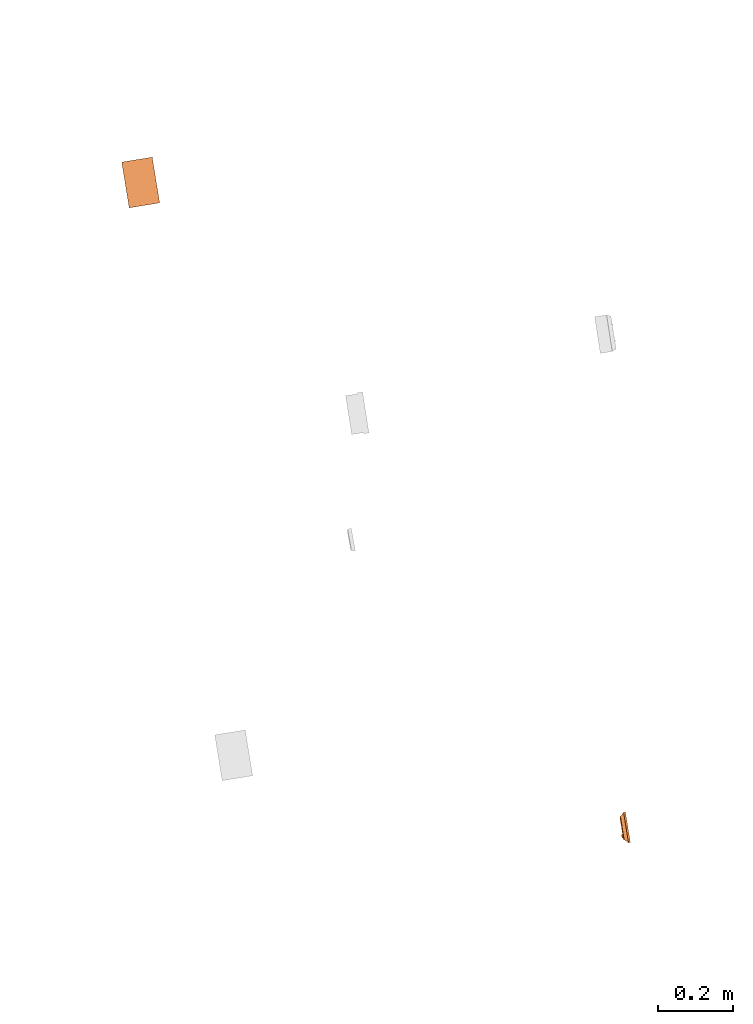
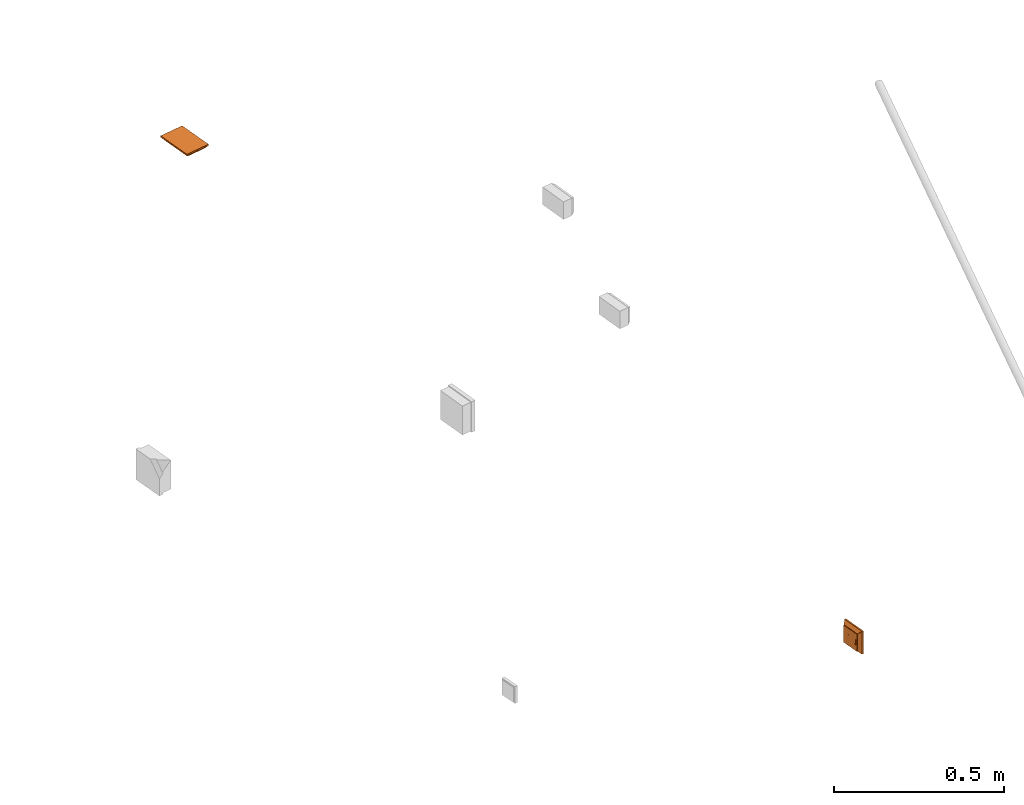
# One storey, part 23 of 33: 2 proxies.
"""IFC2X3 building model written with IfcOpenShell, lengths in millimetres."""

from ifc_helpers import new_model, entity, si_unit, converted_unit, derived_unit, direction, frame, frame_2d, origin, origin_with_axes, origin_2d_with_axis, place, context, subcontext, project, spatial, polyline, rectangle, circle, outline, extrude, faceted_brep, source, transform, mapped, material, type_object, element, save


model = new_model("IFC2X3")

# Units and contexts
plan_context = context("Plan", 3, precision=1e-05, world=origin_with_axes())
model_context = context("Model", 3, precision=0.01, world=origin(), true_north=direction((6.12323399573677e-17, 1.0)))
body_context = subcontext(model_context, "Body", "Model", "MODEL_VIEW")
ifc_project = project(units=[converted_unit("PLANEANGLEUNIT", "DEGREE", entity("IfcPositiveLengthMeasure", 0.0174532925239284), si_unit("PLANEANGLEUNIT", "RADIAN"), dimensions=[0, 0, 0, 0, 0, 0, 0]), si_unit("AREAUNIT", "SQUARE_METRE"), si_unit("LENGTHUNIT", "METRE", prefix="MILLI"), si_unit("MASSUNIT", "GRAM", prefix="KILO"), si_unit("POWERUNIT", "WATT"), si_unit("PRESSUREUNIT", "PASCAL", prefix="KILO"), si_unit("FORCEUNIT", "NEWTON", prefix="KILO"), si_unit("ELECTRICVOLTAGEUNIT", "VOLT"), si_unit("ELECTRICCURRENTUNIT", "AMPERE"), si_unit("THERMODYNAMICTEMPERATUREUNIT", "DEGREE_CELSIUS"), si_unit("TIMEUNIT", "SECOND"), si_unit("VOLUMEUNIT", "CUBIC_METRE"), derived_unit("LINEARVELOCITYUNIT", [(si_unit("LENGTHUNIT", "METRE"), 1), (si_unit("TIMEUNIT", "SECOND"), -1)]), derived_unit("VOLUMETRICFLOWRATEUNIT", [(si_unit("VOLUMEUNIT", "CUBIC_METRE"), 1), (si_unit("TIMEUNIT", "SECOND"), -1)]), derived_unit("THERMALTRANSMITTANCEUNIT", [(si_unit("POWERUNIT", "WATT"), 1), (si_unit("THERMODYNAMICTEMPERATUREUNIT", "KELVIN"), -1), (si_unit("AREAUNIT", "SQUARE_METRE"), -1)]), derived_unit("SOUNDPRESSUREUNIT", [(si_unit("PRESSUREUNIT", "PASCAL"), 1)])], contexts=[model_context, plan_context])

# Site, building, storey
site_placement = place(None, frame((-0.219946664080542, 0.12226179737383, 0.0), z_axis=(0.0, 0.0, 1.0), x_axis=(-0.160236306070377, 0.987078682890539, 0.0)))
site = spatial("IfcSite", under=ifc_project, at=site_placement, Name="Default", CompositionType="ELEMENT")
building_placement = place(site_placement, origin_with_axes())
building = spatial("IfcBuilding", under=site, at=building_placement, CompositionType="ELEMENT")
storey_placement = place(building_placement, frame((0.0, 0.0, 59000.0), z_axis=(0.0, 0.0, 1.0), x_axis=(1.0, 0.0, 0.0)))
storey = spatial("IfcBuildingStorey", under=building, at=storey_placement, Name="Nivå F", CompositionType="ELEMENT", Elevation=59000.0)

# Proxies
ifc_material = material(Name="<Unnamed>")
building_element_proxy_type_1 = type_object("IfcBuildingElementProxyType", Name="Dobbel stikk i tak m_boks 2P+J PH:Earthed reces socket c2", PredefinedType="NOTDEFINED", material=ifc_material)
shared_shape_1 = source(origin(), body_context, "Body", "Brep", [
    faceted_brep([(25.250000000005, -18.3000000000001, -17.8944271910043), (25.250000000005, -18.5954451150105, -17.489897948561), (25.250000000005, -18.7000000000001, -17.0), (25.250000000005, -18.7000000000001, -5.0), (25.250000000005, -19.5000000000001, -5.0), (25.250000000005, -19.5000000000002, -17.0), (25.250000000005, -18.9142135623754, -18.4142135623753), (25.250000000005, -17.5000000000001, -19.0), (25.250000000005, -17.5000000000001, -11.0), (25.250000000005, -18.3000000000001, -11.0), (24.250000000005, -19.5000000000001, -5.0), (24.250000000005, -18.7000000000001, -5.0), (24.250000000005, -18.7000000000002, -17.0), (24.250000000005, -18.5954451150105, -17.489897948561), (24.250000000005, -18.3000000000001, -17.8944271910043), (24.250000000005, -18.3000000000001, -11.0), (24.250000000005, -17.5000000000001, -11.0), (24.250000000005, -17.5000000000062, -19.0), (24.250000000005, -18.9142135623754, -18.4142135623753), (24.250000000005, -19.5000000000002, -17.0)], [[[0, 1, 2, 3, 4, 5, 6, 7, 8, 9]], [[10, 11, 12, 13, 14, 15, 16, 17, 18, 19]], [[11, 10, 4, 3]], [[12, 11, 3, 2]], [[2, 1, 13, 12]], [[0, 14, 13, 1]], [[15, 14, 0, 9]], [[16, 15, 9, 8]], [[17, 16, 8, 7]], [[17, 7, 6, 18]], [[6, 5, 19, 18]], [[10, 19, 5, 4]]]),
    faceted_brep([(24.250000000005, 18.3000000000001, -17.8944271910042), (24.250000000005, 18.5954451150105, -17.4898979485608), (24.250000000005, 18.7000000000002, -17.0), (24.250000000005, 18.7000000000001, -5.0), (24.250000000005, 19.5000000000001, -5.0), (24.250000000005, 19.5000000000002, -17.0), (24.250000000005, 18.9142135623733, -18.4142135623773), (24.250000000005, 17.5000000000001, -19.0), (24.250000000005, 17.5000000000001, -11.0), (24.250000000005, 18.3000000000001, -11.0), (25.250000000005, 19.5000000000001, -5.0), (25.250000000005, 18.7000000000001, -5.0), (25.250000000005, 18.7000000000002, -17.0), (25.250000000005, 18.5954451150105, -17.4898979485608), (25.250000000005, 18.3000000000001, -17.8944271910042), (25.250000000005, 18.3000000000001, -11.0), (25.250000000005, 17.5000000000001, -11.0), (25.250000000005, 17.5000000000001, -19.0), (25.250000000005, 18.9142135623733, -18.4142135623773), (25.250000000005, 19.5000000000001, -17.0)], [[[0, 1, 2, 3, 4, 5, 6, 7, 8, 9]], [[10, 11, 12, 13, 14, 15, 16, 17, 18, 19]], [[9, 8, 16, 15]], [[0, 9, 15, 14]], [[14, 13, 1, 0]], [[12, 2, 1, 13]], [[3, 2, 12, 11]], [[4, 3, 11, 10]], [[5, 4, 10, 19]], [[5, 19, 18, 6]], [[18, 17, 7, 6]], [[8, 7, 17, 16]]]),
    faceted_brep([(-25.249999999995, 18.9142135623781, -18.4142135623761), (-25.249999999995, 19.5000000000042, -17.0), (-25.249999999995, 19.5000000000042, -5.0), (-25.249999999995, 18.7000000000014, -5.0), (-25.249999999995, 18.7000000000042, -17.0), (-25.249999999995, 18.5954451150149, -17.4898979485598), (-25.249999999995, 18.3000000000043, -17.8944271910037), (-25.249999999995, 18.3000000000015, -11.0), (-25.249999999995, 17.5000000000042, -11.0), (-25.249999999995, 17.5000000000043, -19.0), (-26.249999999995, 19.5000000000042, -5.0), (-26.249999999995, 19.5000000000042, -17.0), (-26.249999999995, 18.9142135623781, -18.4142135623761), (-26.249999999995, 17.5000000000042, -19.0), (-26.249999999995, 17.5000000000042, -11.0), (-26.249999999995, 18.3000000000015, -11.0), (-26.249999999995, 18.3000000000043, -17.8944271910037), (-26.249999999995, 18.5954451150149, -17.4898979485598), (-26.249999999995, 18.7000000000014, -17.0), (-26.249999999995, 18.7000000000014, -5.0)], [[[0, 1, 2, 3, 4, 5, 6, 7, 8, 9]], [[10, 11, 12, 13, 14, 15, 16, 17, 18, 19]], [[11, 10, 2, 1]], [[11, 1, 0, 12]], [[0, 9, 13, 12]], [[14, 13, 9, 8]], [[16, 15, 7, 6]], [[6, 5, 17, 16]], [[4, 18, 17, 5]], [[19, 18, 4, 3]], [[10, 19, 3, 2]], [[15, 14, 8, 7]]]),
    faceted_brep([(-26.249999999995, -17.4999999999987, -5.0), (-26.249999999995, -17.4999999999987, -19.0), (-26.249999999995, -18.9142135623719, -18.4142135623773), (-26.249999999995, -19.4999999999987, -17.0), (-26.249999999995, -19.4999999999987, -11.0), (-26.249999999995, -18.6999999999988, -11.0), (-26.249999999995, -18.6999999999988, -17.0), (-26.249999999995, -18.5954451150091, -17.4898979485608), (-26.249999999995, -18.2999999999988, -17.8944271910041), (-26.249999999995, -18.2999999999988, -5.0), (-25.249999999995, -17.4999999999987, -19.0), (-25.249999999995, -17.4999999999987, -5.0), (-25.249999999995, -18.2999999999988, -5.0), (-25.249999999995, -18.2999999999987, -17.8944271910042), (-25.249999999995, -18.5954451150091, -17.4898979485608), (-25.249999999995, -18.6999999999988, -17.0), (-25.249999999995, -18.6999999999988, -11.0), (-25.249999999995, -19.4999999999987, -11.0), (-25.249999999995, -19.4999999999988, -17.0), (-25.249999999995, -18.9142135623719, -18.4142135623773)], [[[0, 1, 2, 3, 4, 5, 6, 7, 8, 9]], [[10, 11, 12, 13, 14, 15, 16, 17, 18, 19]], [[1, 0, 11, 10]], [[10, 19, 2, 1]], [[2, 19, 18, 3]], [[4, 3, 18, 17]], [[5, 4, 17, 16]], [[6, 5, 16, 15]], [[14, 7, 6, 15]], [[13, 8, 7, 14]], [[9, 8, 13, 12]], [[0, 9, 12, 11]]]),
    faceted_brep([(15.7500000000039, -2.5, -5.0), (16.3750000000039, -1.875, -5.0), (17.0, -1.25, -5.0), (17.6250000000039, -0.625000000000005, -5.0), (18.2500000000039, 0.0, -5.0), (17.7008289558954, 0.54917104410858, -5.0), (17.0, 1.25, -5.0), (16.375000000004, 1.875, -5.0), (15.750000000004, 2.5, -5.0), (15.125000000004, 1.87500000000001, -5.0), (14.500000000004, 1.25000000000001, -5.0), (13.8750000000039, 0.625000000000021, -5.0), (13.2500000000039, 0.0, -5.0), (13.7991710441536, -0.549171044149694, -5.0), (14.5000000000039, -1.25, -5.0), (15.1250000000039, -1.875, -5.0), (17.7008289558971, -0.549171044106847, -5.20000000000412), (17.1516579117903, -1.09834208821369, -5.20000000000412), (16.4508289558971, -1.79917104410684, -5.20000000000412), (15.7500000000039, -2.5, -5.20000000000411), (15.1250000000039, -1.875, -5.20000000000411), (14.5000000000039, -1.25, -5.20000000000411), (13.8750000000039, -0.625, -5.20000000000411), (13.2500000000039, 0.0, -5.2000000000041), (13.7991710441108, 0.54917104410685, -5.20000000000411), (14.3483420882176, 1.09834208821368, -5.20000000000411), (15.0491710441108, 1.79917104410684, -5.20000000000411), (15.750000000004, 2.5, -5.20000000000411), (16.375000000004, 1.875, -5.20000000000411), (17.0, 1.25, -5.20000000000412), (17.6250000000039, 0.624999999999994, -5.20000000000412), (18.2500000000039, 0.0, -5.20000000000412)], [[[0, 1, 2, 3, 4, 5, 6, 7, 8, 9, 10, 11, 12, 13, 14, 15]], [[16, 17, 18, 19, 20, 21, 22, 23, 24, 25, 26, 27, 28, 29, 30, 31]], [[29, 28, 27, 8, 7, 6, 5, 4, 31, 30]], [[8, 27, 26, 25, 24, 23, 12, 11, 10, 9]], [[21, 20, 19, 0, 15, 14, 13, 12, 23, 22]], [[0, 19, 18, 17, 16, 31, 4, 3, 2, 1]]]),
    faceted_brep([(35.0491710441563, -1.79917104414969, -5.20000000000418), (34.348342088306, -1.09834208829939, -5.20000000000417), (33.7991710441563, -0.549171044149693, -5.20000000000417), (33.2500000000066, 0.0, -5.20000000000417), (33.8750000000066, 0.625000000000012, -5.20000000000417), (34.5000000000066, 1.25000000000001, -5.20000000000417), (35.1250000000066, 1.875, -5.20000000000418), (35.7500000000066, 2.5, -5.20000000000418), (36.450828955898, 1.79917104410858, -5.20000000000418), (37.1516579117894, 1.09834208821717, -5.20000000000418), (37.700828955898, 0.54917104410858, -5.20000000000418), (38.2500000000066, 0.0, -5.20000000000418), (37.6250000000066, -0.625000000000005, -5.20000000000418), (37.0, -1.25, -5.20000000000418), (36.3750000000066, -1.875, -5.20000000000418), (35.7500000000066, -2.5, -5.20000000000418), (35.1250000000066, 1.87500000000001, -5.0), (34.5000000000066, 1.25000000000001, -5.0), (33.7991710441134, 0.549171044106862, -5.0), (33.2500000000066, 0.0, -5.0), (33.8750000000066, -0.625, -5.0), (34.5000000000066, -1.25, -5.0), (35.1250000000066, -1.875, -5.0), (35.7500000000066, -2.5, -5.0), (36.3750000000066, -1.875, -5.0), (37.0, -1.25, -5.0), (37.7008289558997, -0.549171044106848, -5.0), (38.2500000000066, 0.0, -5.0), (37.6250000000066, 0.624999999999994, -5.0), (37.0, 1.25, -5.0), (36.3750000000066, 1.875, -5.0), (35.7500000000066, 2.5, -5.0)], [[[0, 1, 2, 3, 4, 5, 6, 7, 8, 9, 10, 11, 12, 13, 14, 15]], [[16, 17, 18, 19, 20, 21, 22, 23, 24, 25, 26, 27, 28, 29, 30, 31]], [[30, 29, 28, 27, 11, 10, 9, 8, 7, 31]], [[31, 7, 6, 5, 4, 3, 19, 18, 17, 16]], [[22, 21, 20, 19, 3, 2, 1, 0, 15, 23]], [[23, 15, 14, 13, 12, 11, 27, 26, 25, 24]]]),
    faceted_brep([(-36.3749999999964, 1.87500000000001, -5.0), (-37.0, 1.25000000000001, -5.0), (-37.6249999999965, 0.625000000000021, -5.0), (-38.2499999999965, 0.0, -5.0), (-37.7008289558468, -0.549171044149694, -5.0), (-37.0, -1.25, -5.0), (-36.3749999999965, -1.875, -5.0), (-35.7499999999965, -2.5, -5.0), (-35.1249999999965, -1.875, -5.0), (-34.4999999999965, -1.25, -5.0), (-33.8749999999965, -0.625000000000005, -5.0), (-33.2499999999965, 0.0, -5.0), (-33.799171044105, 0.54917104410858, -5.0), (-34.4999999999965, 1.25, -5.0), (-35.1249999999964, 1.875, -5.0), (-35.7499999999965, 2.5, -5.0), (-36.3749999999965, -1.875, -5.20000000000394), (-37.0, -1.25, -5.20000000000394), (-37.6249999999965, -0.625, -5.20000000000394), (-38.2499999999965, 0.0, -5.20000000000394), (-37.7008289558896, 0.54917104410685, -5.20000000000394), (-37.1516579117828, 1.09834208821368, -5.20000000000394), (-36.4508289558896, 1.79917104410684, -5.20000000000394), (-35.7499999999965, 2.5, -5.20000000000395), (-35.1249999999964, 1.875, -5.20000000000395), (-34.4999999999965, 1.25, -5.20000000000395), (-33.8749999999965, 0.624999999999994, -5.20000000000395), (-33.2499999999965, 0.0, -5.20000000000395), (-33.7991710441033, -0.549171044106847, -5.20000000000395), (-34.3483420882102, -1.09834208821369, -5.20000000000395), (-35.0491710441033, -1.79917104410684, -5.20000000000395), (-35.7499999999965, -2.5, -5.20000000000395)], [[[0, 1, 2, 3, 4, 5, 6, 7, 8, 9, 10, 11, 12, 13, 14, 15]], [[16, 17, 18, 19, 20, 21, 22, 23, 24, 25, 26, 27, 28, 29, 30, 31]], [[25, 24, 23, 15, 14, 13, 12, 11, 27, 26]], [[15, 23, 22, 21, 20, 19, 3, 2, 1, 0]], [[17, 16, 31, 7, 6, 5, 4, 3, 19, 18]], [[7, 31, 30, 29, 28, 27, 11, 10, 9, 8]]]),
    faceted_brep([(-16.4508289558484, -1.79917104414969, -5.20000000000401), (-17.1516579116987, -1.09834208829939, -5.20000000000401), (-17.7008289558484, -0.549171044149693, -5.200000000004), (-18.2499999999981, 0.0, -5.200000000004), (-17.6249999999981, 0.625000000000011, -5.200000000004), (-17.0, 1.25000000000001, -5.20000000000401), (-16.3749999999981, 1.875, -5.20000000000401), (-15.7499999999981, 2.5, -5.20000000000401), (-15.0491710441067, 1.79917104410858, -5.20000000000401), (-14.3483420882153, 1.09834208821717, -5.20000000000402), (-13.7991710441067, 0.549171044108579, -5.20000000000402), (-13.2499999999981, 0.0, -5.20000000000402), (-13.8749999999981, -0.625000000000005, -5.20000000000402), (-14.4999999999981, -1.25, -5.20000000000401), (-15.1249999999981, -1.875, -5.20000000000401), (-15.7499999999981, -2.5, -5.20000000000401), (-16.3749999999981, 1.87500000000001, -5.0), (-17.0, 1.25000000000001, -5.0), (-17.7008289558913, 0.549171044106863, -5.0), (-18.2499999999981, 0.0, -5.0), (-17.6249999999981, -0.625, -5.0), (-17.0, -1.25, -5.0), (-16.3749999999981, -1.875, -5.0), (-15.7499999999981, -2.5, -5.0), (-15.1249999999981, -1.875, -5.0), (-14.4999999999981, -1.25, -5.0), (-13.799171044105, -0.549171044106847, -5.0), (-13.2499999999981, 0.0, -5.0), (-13.8749999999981, 0.624999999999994, -5.0), (-14.4999999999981, 1.25, -5.0), (-15.1249999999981, 1.875, -5.0), (-15.7499999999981, 2.5, -5.0)], [[[0, 1, 2, 3, 4, 5, 6, 7, 8, 9, 10, 11, 12, 13, 14, 15]], [[16, 17, 18, 19, 20, 21, 22, 23, 24, 25, 26, 27, 28, 29, 30, 31]], [[30, 29, 28, 27, 11, 10, 9, 8, 7, 31]], [[31, 7, 6, 5, 4, 3, 19, 18, 17, 16]], [[22, 21, 20, 19, 3, 2, 1, 0, 15, 23]], [[23, 15, 14, 13, 12, 11, 27, 26, 25, 24]]]),
    faceted_brep([(-51.5000000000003, -31.0, -17.0), (-35.7500000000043, -17.3205080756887, -17.0), (-30.9263809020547, -19.3185165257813, -17.0), (-39.8921356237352, -14.1421356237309, -17.0), (-25.750000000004, -20.0, -17.0), (-20.5736190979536, -19.3185165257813, -17.0), (20.5736190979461, -19.3185165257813, -17.0), (-43.070508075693, -10.0, -17.0), (-45.0685165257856, -5.1763809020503, -17.0), (-45.7500000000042, 0.0, -17.0), (51.5000000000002, -31.0, -17.0), (-51.5000000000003, 31.0, -17.0), (-45.0685165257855, 5.17638090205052, -17.0), (-43.0705080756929, 10.0, -17.0), (-39.892135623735, 14.142135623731, -17.0), (-35.7500000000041, 17.3205080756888, -17.0), (-30.9263809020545, 19.3185165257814, -17.0), (-25.7500000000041, 20.0, -17.0), (-20.5736190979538, 19.3185165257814, -17.0), (20.5736190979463, 19.3185165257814, -17.0), (51.5000000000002, 31.0, -17.0), (25.7499999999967, 20.0, -17.0), (30.926380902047, 19.3185165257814, -17.0), (35.7499999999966, 17.3205080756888, -17.0), (39.8921356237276, 14.142135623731, -17.0), (43.0705080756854, 10.0, -17.0), (45.068516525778, 5.1763809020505, -17.0), (45.7499999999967, 0.0, -17.0), (25.7499999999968, -20.0, -17.0), (30.9263809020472, -19.3185165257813, -17.0), (35.7499999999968, -17.3205080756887, -17.0), (39.8921356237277, -14.1421356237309, -17.0), (43.0705080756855, -10.0, -17.0), (45.0685165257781, -5.17638090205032, -17.0), (15.7499999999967, 17.3205080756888, -17.0), (-15.7500000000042, 17.3205080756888, -17.0), (11.6078643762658, 14.142135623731, -17.0), (-11.6078643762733, 14.142135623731, -17.0), (8.42949192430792, 10.0, -17.0), (-8.42949192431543, 10.0, -17.0), (6.4314834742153, 5.17638090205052, -17.0), (-6.43148347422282, 5.1763809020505, -17.0), (-5.75000000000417, 0.0, -17.0), (5.74999999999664, 0.0, -17.0), (6.43148347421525, -5.1763809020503, -17.0), (-6.43148347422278, -5.17638090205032, -17.0), (-8.42949192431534, -10.0, -17.0), (8.42949192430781, -10.0, -17.0), (-11.6078643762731, -14.1421356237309, -17.0), (11.6078643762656, -14.1421356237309, -17.0), (-15.7500000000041, -17.3205080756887, -17.0), (15.7499999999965, -17.3205080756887, -17.0), (61.5000000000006, -41.0, -5.0), (35.7499999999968, -17.3205080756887, -5.0), (30.9263809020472, -19.3185165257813, -5.0), (39.8921356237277, -14.1421356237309, -5.0), (25.7499999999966, -20.0, -5.0), (20.5736190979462, -19.3185165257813, -5.0), (-20.5736190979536, -19.3185165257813, -5.0), (43.0705080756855, -10.0, -5.0), (45.0685165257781, -5.17638090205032, -5.0), (45.7499999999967, 0.0, -5.0), (-61.5000000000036, -41.0, -5.0), (61.5000000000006, 41.0, -5.0), (45.068516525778, 5.1763809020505, -5.0), (43.0705080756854, 10.0, -5.0), (39.8921356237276, 14.142135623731, -5.0), (35.7499999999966, 17.3205080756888, -5.0), (30.9263809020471, 19.3185165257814, -5.0), (25.7499999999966, 20.0, -5.0), (20.5736190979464, 19.3185165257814, -5.0), (-20.5736190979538, 19.3185165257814, -5.0), (-61.5000000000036, 41.0, -5.0), (-25.7500000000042, 20.0, -5.0), (-30.9263809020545, 19.3185165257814, -5.0), (-35.750000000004, 17.3205080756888, -5.0), (-39.892135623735, 14.142135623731, -5.0), (-43.0705080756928, 10.0, -5.0), (-45.0685165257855, 5.17638090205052, -5.0), (-45.7500000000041, 0.0, -5.0), (-25.7500000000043, -20.0, -5.0), (-30.9263809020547, -19.3185165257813, -5.0), (-35.7500000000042, -17.3205080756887, -5.0), (-39.8921356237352, -14.1421356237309, -5.0), (-43.070508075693, -10.0, -5.0), (-45.0685165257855, -5.1763809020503, -5.0), (-15.7500000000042, 17.3205080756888, -5.0), (15.7499999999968, 17.3205080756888, -5.0), (-11.6078643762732, 14.142135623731, -5.0), (11.6078643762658, 14.142135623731, -5.0), (-8.4294919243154, 10.0, -5.0), (8.42949192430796, 10.0, -5.0), (-6.43148347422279, 5.1763809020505, -5.0), (6.43148347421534, 5.17638090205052, -5.0), (5.74999999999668, 0.0, -5.0), (-5.75000000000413, 0.0, -5.0), (-6.43148347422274, -5.17638090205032, -5.0), (6.43148347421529, -5.1763809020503, -5.0), (8.42949192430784, -10.0, -5.0), (-8.4294919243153, -10.0, -5.0), (11.6078643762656, -14.1421356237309, -5.0), (-11.6078643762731, -14.1421356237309, -5.0), (15.7499999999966, -17.3205080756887, -5.0), (-15.750000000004, -17.3205080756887, -5.0)], [[[0, 1, 2]], [[1, 0, 3]], [[0, 2, 4]], [[4, 5, 0]], [[0, 5, 6]], [[7, 3, 0]], [[8, 7, 0]], [[0, 9, 8]], [[6, 10, 0]], [[9, 0, 11]], [[12, 9, 11]], [[13, 12, 11]], [[11, 14, 13]], [[14, 11, 15]], [[15, 11, 16]], [[17, 16, 11]], [[18, 17, 11]], [[11, 19, 18]], [[19, 11, 20]], [[21, 19, 20]], [[20, 22, 21]], [[22, 20, 23]], [[24, 23, 20]], [[24, 20, 25]], [[26, 25, 20]], [[27, 26, 20]], [[27, 20, 10]], [[6, 28, 10]], [[29, 10, 28]], [[10, 29, 30]], [[10, 30, 31]], [[31, 32, 10]], [[32, 33, 10]], [[10, 33, 27]], [[19, 34, 18]], [[35, 18, 34]], [[36, 35, 34]], [[37, 35, 36]], [[36, 38, 37]], [[39, 37, 38]], [[38, 40, 39]], [[41, 39, 40]], [[40, 42, 41]], [[42, 40, 43]], [[43, 44, 42]], [[45, 42, 44]], [[46, 45, 44]], [[44, 47, 46]], [[48, 46, 47]], [[47, 49, 48]], [[50, 48, 49]], [[51, 50, 49]], [[5, 50, 51]], [[51, 6, 5]], [[52, 53, 54]], [[53, 52, 55]], [[52, 54, 56]], [[56, 57, 52]], [[52, 57, 58]], [[59, 55, 52]], [[60, 59, 52]], [[52, 61, 60]], [[58, 62, 52]], [[61, 52, 63]], [[64, 61, 63]], [[65, 64, 63]], [[63, 66, 65]], [[66, 63, 67]], [[67, 63, 68]], [[69, 68, 63]], [[70, 69, 63]], [[70, 63, 71]], [[63, 72, 71]], [[73, 71, 72]], [[72, 74, 73]], [[74, 72, 75]], [[76, 75, 72]], [[76, 72, 77]], [[78, 77, 72]], [[79, 78, 72]], [[79, 72, 62]], [[58, 80, 62]], [[81, 62, 80]], [[62, 81, 82]], [[62, 82, 83]], [[83, 84, 62]], [[84, 85, 62]], [[62, 85, 79]], [[86, 70, 71]], [[86, 87, 70]], [[88, 87, 86]], [[89, 87, 88]], [[88, 90, 89]], [[91, 89, 90]], [[90, 92, 91]], [[93, 91, 92]], [[92, 94, 93]], [[94, 92, 95]], [[95, 96, 94]], [[97, 94, 96]], [[98, 97, 96]], [[96, 99, 98]], [[100, 98, 99]], [[99, 101, 100]], [[102, 100, 101]], [[103, 102, 101]], [[103, 57, 102]], [[58, 57, 103]], [[20, 63, 52, 10]], [[11, 72, 63, 20]], [[0, 62, 72, 11]], [[10, 52, 62, 0]], [[73, 17, 18, 71]], [[71, 18, 35, 86]], [[90, 88, 37, 39]], [[37, 88, 86, 35]], [[92, 90, 39, 41]], [[92, 41, 42, 95]], [[95, 42, 45, 96]], [[96, 45, 46, 99]], [[103, 101, 48, 50]], [[48, 101, 99, 46]], [[58, 103, 50, 5]], [[58, 5, 4, 80]], [[80, 4, 2, 81]], [[81, 2, 1, 82]], [[84, 83, 3, 7]], [[3, 83, 82, 1]], [[85, 84, 7, 8]], [[85, 8, 9, 79]], [[79, 9, 12, 78]], [[78, 12, 13, 77]], [[75, 76, 14, 15]], [[14, 76, 77, 13]], [[74, 75, 15, 16]], [[74, 16, 17, 73]], [[69, 21, 22, 68]], [[68, 22, 23, 67]], [[65, 66, 24, 25]], [[23, 24, 66, 67]], [[64, 65, 25, 26]], [[27, 61, 64, 26]], [[60, 33, 32, 59]], [[59, 32, 31, 55]], [[54, 53, 30, 29]], [[31, 30, 53, 55]], [[56, 54, 29, 28]], [[60, 61, 27, 33]], [[56, 28, 6, 57]], [[57, 6, 51, 102]], [[98, 100, 49, 47]], [[51, 49, 100, 102]], [[97, 98, 47, 44]], [[43, 94, 97, 44]], [[93, 40, 38, 91]], [[91, 38, 36, 89]], [[70, 87, 34, 19]], [[36, 34, 87, 89]], [[69, 70, 19, 21]], [[93, 94, 43, 40]]]),
    faceted_brep([(61.5000000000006, -41.0, 0.0), (61.5000000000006, 41.0, 0.0), (-61.5000000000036, 41.0, 0.0), (-61.5000000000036, -41.0, 0.0), (61.5000000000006, -41.0, -5.0), (-61.5000000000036, -41.0, -5.0), (-61.5000000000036, 41.0, -5.0), (61.5000000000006, 41.0, -5.0)], [[[0, 1, 2, 3]], [[4, 5, 6, 7]], [[1, 0, 4, 7]], [[2, 1, 7, 6]], [[3, 2, 6, 5]], [[0, 3, 5, 4]]]),
])
proxy_1_placement = place(storey_placement, frame((780855.192588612, -502548.157664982, 2800.0), z_axis=(0.0, 0.0, 1.0), x_axis=(1.0, 0.0, 0.0)))
element("IfcBuildingElementProxy", 1, at=proxy_1_placement, inside=storey, type_object=building_element_proxy_type_1, material=ifc_material, Name="Dobbel stikk i tak m_boks 2P+J PH:Earthed reces socket c2", ObjectType="Dobbel stikk i tak m_boks 2P+J PH:Earthed reces socket c2", context=body_context, shape_type="MappedRepresentation", body=[
    mapped(shared_shape_1, transform((0.0, 0.0, 0.0), scale=1.0)),
])
building_element_proxy_type_2 = type_object("IfcBuildingElementProxyType", Name="Styrepanel_FC:Styrepanel-FC", PredefinedType="NOTDEFINED", material=ifc_material)
shared_shape_2 = source(origin(), body_context, "Body", "SweptSolid", [
    extrude(rectangle(XDim=0.200000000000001, YDim=9.99999999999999, at=frame_2d((2.22044604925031e-15, -2.25514051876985e-15), x_axis=(0.0, 1.0))), frame((21.0, -19.9768091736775, -9.77872704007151), z_axis=(0.0, 0.148340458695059, 0.988936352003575), x_axis=(-1.0, 0.0, 0.0)), (0.0, 0.0, 1.0), 20.0),
    extrude(rectangle(XDim=0.199999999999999, YDim=2.9750493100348, at=frame_2d((2.1094237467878e-15, 1.59594559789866e-16), x_axis=(0.0, 1.0))), frame((16.0, -18.493404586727, -9.88936352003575), z_axis=(1.0, 0.0, 0.0), x_axis=(0.0, 0.997230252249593, -0.0743762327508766)), (0.0, 0.0, 1.0), 9.99999999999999),
    extrude(outline(polyline([(-6.74042431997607, -0.988936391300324), (13.2595756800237, -0.988936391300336), (-6.5191513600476, 1.97787278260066), (-6.74042431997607, -0.988936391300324)])), frame((25.9, -17.9989363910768, -3.25957568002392), z_axis=(1.0, 0.0, 0.0), x_axis=(0.0, 0.0, 1.0)), (0.0, 0.0, 1.0), 0.200000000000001),
    extrude(outline(polyline([(-6.74042431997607, -0.988936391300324), (13.2595756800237, -0.988936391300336), (-6.5191513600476, 1.97787278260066), (-6.74042431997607, -0.988936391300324)])), frame((15.9, -17.9989363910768, -3.25957568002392), z_axis=(1.0, 0.0, 0.0), x_axis=(0.0, 0.0, 1.0)), (0.0, 0.0, 1.0), 0.199999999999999),
    extrude(rectangle(XDim=9.99999999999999, YDim=0.199999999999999, at=frame_2d((2.22044604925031e-15, 1.06165076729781e-15), x_axis=(1.0, 0.0))), frame((21.0, -17.0099999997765, -10.0), z_axis=(0.0, 0.0, 1.0), x_axis=(-1.0, 0.0, 0.0)), (0.0, 0.0, 1.0), 20.0),
    extrude(outline(polyline([(-29.4448637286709, -29.3938769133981), (-12.1243556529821, -29.3938769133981), (23.6713610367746, 21.2289111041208), (17.8978583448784, 37.5588427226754), (-29.4448637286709, -29.3938769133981)])), frame((36.0707106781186, -10.0707106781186, 0.0), z_axis=(-0.707106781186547, 0.707106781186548, 0.0), x_axis=(-0.577350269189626, -0.577350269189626, 0.577350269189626)), (0.0, 0.0, 1.0), 0.199999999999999),
    extrude(outline(polyline([(-41.0, -7.07106781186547), (41.0, -7.07106781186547), (31.0, 7.07106781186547), (-31.0, 7.07106781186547), (-41.0, -7.07106781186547)])), frame((-36.0707106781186, -10.0707106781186, 0.0), z_axis=(0.707106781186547, 0.707106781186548, 0.0), x_axis=(0.0, 0.0, 1.0)), (0.0, 0.0, 1.0), 0.200000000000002),
    extrude(outline(polyline([(12.1243556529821, -29.3938769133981), (29.4448637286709, -29.3938769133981), (-17.8978583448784, 37.5588427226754), (-23.6713610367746, 21.2289111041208), (12.1243556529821, -29.3938769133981)])), frame((0.0, -10.0707106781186, -36.0707106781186), z_axis=(0.0, 0.707106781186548, 0.707106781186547), x_axis=(0.577350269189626, 0.577350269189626, -0.577350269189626)), (0.0, 0.0, 1.0), 0.199999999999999),
    extrude(outline(polyline([(-31.0, -7.07106781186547), (31.0, -7.07106781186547), (41.0, 7.07106781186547), (-41.0, 7.07106781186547), (-31.0, -7.07106781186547)])), frame((0.0, -10.0707106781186, 36.0707106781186), z_axis=(0.0, 0.707106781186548, -0.707106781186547), x_axis=(-1.0, 0.0, 0.0)), (0.0, 0.0, 1.0), 0.199999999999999),
    extrude(rectangle(XDim=61.9999999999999, YDim=0.200000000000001, at=origin_2d_with_axis()), frame((0.0, -15.0, -31.0), z_axis=(0.0, 0.0, 1.0), x_axis=(-1.0, 0.0, 0.0)), (0.0, 0.0, 1.0), 61.9999999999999),
    extrude(circle(Radius=0.999999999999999, at=frame_2d((0.0, -1.05748743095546e-15), x_axis=(1.0, 0.0))), frame((-9.49999999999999, -17.1199999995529, 7.0), z_axis=(0.0, 1.0, 0.0), x_axis=(0.0, 0.0, 1.0)), (0.0, 0.0, 1.0), 0.199999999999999),
    extrude(circle(Radius=0.5, at=origin_2d_with_axis()), frame((-11.5, -17.1199999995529, 5.0), z_axis=(0.0, 1.0, 0.0), x_axis=(0.0, 0.0, 1.0)), (0.0, 0.0, 1.0), 0.199999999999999),
    extrude(circle(Radius=9.99999999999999, at=frame_2d((0.0, -1.48048240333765e-14), x_axis=(1.0, 0.0))), frame((-19.0, -17.1099999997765, 0.0), z_axis=(0.0, 1.0, 0.0), x_axis=(0.0, 0.0, 1.0)), (0.0, 0.0, 1.0), 0.199999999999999),
    extrude(rectangle(XDim=2.0, YDim=61.9999999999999, at=origin_2d_with_axis()), frame((0.0, -16.0, -31.0), z_axis=(0.0, 0.0, 1.0), x_axis=(0.0, -1.0, 0.0)), (0.0, 0.0, 1.0), 61.9999999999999),
    extrude(rectangle(XDim=4.99999999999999, YDim=81.9999999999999, at=origin_2d_with_axis()), frame((0.0, -2.5, -41.0), z_axis=(0.0, 0.0, 1.0), x_axis=(0.0, -1.0, 0.0)), (0.0, 0.0, 1.0), 81.9999999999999),
])
proxy_2_placement = place(storey_placement, frame((778959.461565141, -503550.021332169, 1600.0), z_axis=(0.0, 0.0, 1.0), x_axis=(-1.0, 0.0, 0.0)))
element("IfcBuildingElementProxy", 2, at=proxy_2_placement, inside=storey, type_object=building_element_proxy_type_2, material=ifc_material, Name="Styrepanel_FC:Styrepanel-FC", ObjectType="Styrepanel_FC:Styrepanel-FC", context=body_context, shape_type="MappedRepresentation", body=[
    mapped(shared_shape_2, transform((0.0, 0.0, 0.0), scale=1.0)),
])

save(model, "model.ifc")
